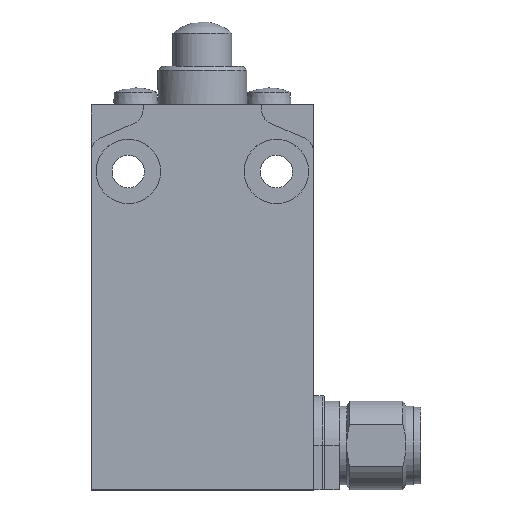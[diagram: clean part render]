
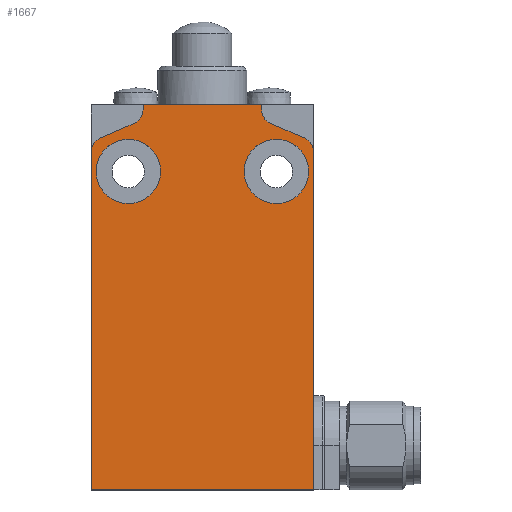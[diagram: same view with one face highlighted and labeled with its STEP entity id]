
A CAD part, top view. The second image highlights one B-rep face of the part: STEP entity #1667.
In plain terms, the highlighted planar face has unit normal (0, 0, 1) as drawn and (0, -1, 0) by its records, which use the part's own axes.
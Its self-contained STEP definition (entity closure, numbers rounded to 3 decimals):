
#54=LINE('',#2569,#172);
#81=LINE('',#2656,#199);
#82=LINE('',#2660,#200);
#83=LINE('',#2662,#201);
#84=LINE('',#2664,#202);
#85=LINE('',#2668,#203);
#86=LINE('',#2672,#204);
#87=LINE('',#2673,#205);
#172=VECTOR('',#2034,45.681);
#199=VECTOR('',#2127,4.978);
#200=VECTOR('',#2130,0.681);
#201=VECTOR('',#2131,16.);
#202=VECTOR('',#2132,0.681);
#203=VECTOR('',#2135,4.978);
#204=VECTOR('',#2138,45.681);
#205=VECTOR('',#2139,30.);
#307=PLANE('',#1812);
#357=FACE_BOUND('',#524,.T.);
#358=FACE_BOUND('',#525,.T.);
#408=FACE_OUTER_BOUND('',#523,.T.);
#523=EDGE_LOOP('',(#1210,#1211,#1212,#1213,#1214,#1215,#1216,#1217,#1218,
#1219,#1220,#1221));
#524=EDGE_LOOP('',(#1222));
#525=EDGE_LOOP('',(#1223));
#617=CIRCLE('',#1755,4.35);
#621=CIRCLE('',#1761,4.35);
#643=CIRCLE('',#1810,2.);
#645=CIRCLE('',#1813,2.);
#646=CIRCLE('',#1814,2.);
#647=CIRCLE('',#1815,2.);
#708=VERTEX_POINT('',#2478);
#712=VERTEX_POINT('',#2488);
#735=VERTEX_POINT('',#2566);
#736=VERTEX_POINT('',#2568);
#761=VERTEX_POINT('',#2649);
#763=VERTEX_POINT('',#2655);
#764=VERTEX_POINT('',#2657);
#765=VERTEX_POINT('',#2659);
#766=VERTEX_POINT('',#2661);
#767=VERTEX_POINT('',#2663);
#768=VERTEX_POINT('',#2665);
#769=VERTEX_POINT('',#2667);
#770=VERTEX_POINT('',#2669);
#771=VERTEX_POINT('',#2671);
#862=EDGE_CURVE('',#708,#708,#617,.T.);
#866=EDGE_CURVE('',#712,#712,#621,.T.);
#897=EDGE_CURVE('',#735,#736,#54,.T.);
#935=EDGE_CURVE('',#761,#735,#643,.T.);
#938=EDGE_CURVE('',#761,#763,#81,.T.);
#939=EDGE_CURVE('',#764,#763,#645,.T.);
#940=EDGE_CURVE('',#764,#765,#82,.T.);
#941=EDGE_CURVE('',#766,#765,#83,.T.);
#942=EDGE_CURVE('',#766,#767,#84,.T.);
#943=EDGE_CURVE('',#768,#767,#646,.T.);
#944=EDGE_CURVE('',#768,#769,#85,.T.);
#945=EDGE_CURVE('',#770,#769,#647,.T.);
#946=EDGE_CURVE('',#771,#770,#86,.T.);
#947=EDGE_CURVE('',#736,#771,#87,.T.);
#1210=ORIENTED_EDGE('',*,*,#935,.F.);
#1211=ORIENTED_EDGE('',*,*,#938,.T.);
#1212=ORIENTED_EDGE('',*,*,#939,.F.);
#1213=ORIENTED_EDGE('',*,*,#940,.T.);
#1214=ORIENTED_EDGE('',*,*,#941,.F.);
#1215=ORIENTED_EDGE('',*,*,#942,.T.);
#1216=ORIENTED_EDGE('',*,*,#943,.F.);
#1217=ORIENTED_EDGE('',*,*,#944,.T.);
#1218=ORIENTED_EDGE('',*,*,#945,.F.);
#1219=ORIENTED_EDGE('',*,*,#946,.F.);
#1220=ORIENTED_EDGE('',*,*,#947,.F.);
#1221=ORIENTED_EDGE('',*,*,#897,.F.);
#1222=ORIENTED_EDGE('',*,*,#866,.T.);
#1223=ORIENTED_EDGE('',*,*,#862,.T.);
#1667=ADVANCED_FACE('',(#408,#357,#358),#307,.T.);
#1755=AXIS2_PLACEMENT_3D('',#2479,#1971,#1972);
#1761=AXIS2_PLACEMENT_3D('',#2489,#1983,#1984);
#1810=AXIS2_PLACEMENT_3D('',#2650,#2120,#2121);
#1812=AXIS2_PLACEMENT_3D('',#2654,#2125,#2126);
#1813=AXIS2_PLACEMENT_3D('',#2658,#2128,#2129);
#1814=AXIS2_PLACEMENT_3D('',#2666,#2133,#2134);
#1815=AXIS2_PLACEMENT_3D('',#2670,#2136,#2137);
#1971=DIRECTION('center_axis',(0.,1.,0.));
#1972=DIRECTION('ref_axis',(-1.,0.,0.));
#1983=DIRECTION('center_axis',(0.,1.,0.));
#1984=DIRECTION('ref_axis',(1.,0.,0.));
#2034=DIRECTION('',(0.,0.,-1.));
#2120=DIRECTION('center_axis',(0.,1.,0.));
#2121=DIRECTION('ref_axis',(0.835,0.,0.55));
#2125=DIRECTION('center_axis',(0.,-1.,0.));
#2126=DIRECTION('ref_axis',(1.,0.,0.));
#2127=DIRECTION('',(-0.919,0.,0.394));
#2128=DIRECTION('center_axis',(0.,-1.,0.));
#2129=DIRECTION('ref_axis',(-0.835,0.,-0.55));
#2130=DIRECTION('',(0.,0.,1.));
#2131=DIRECTION('',(1.,0.,0.));
#2132=DIRECTION('',(0.,0.,-1.));
#2133=DIRECTION('center_axis',(0.,-1.,0.));
#2134=DIRECTION('ref_axis',(0.835,0.,-0.55));
#2135=DIRECTION('',(-0.919,0.,-0.394));
#2136=DIRECTION('center_axis',(0.,1.,0.));
#2137=DIRECTION('ref_axis',(-0.835,0.,0.55));
#2138=DIRECTION('',(0.,0.,1.));
#2139=DIRECTION('',(-1.,0.,0.));
#2478=CARTESIAN_POINT('',(-5.65,-16.,0.));
#2479=CARTESIAN_POINT('Origin',(-10.,-16.,0.));
#2488=CARTESIAN_POINT('',(5.65,-16.,0.));
#2489=CARTESIAN_POINT('Origin',(10.,-16.,0.));
#2566=CARTESIAN_POINT('',(15.,-16.,2.681));
#2568=CARTESIAN_POINT('',(15.,-16.,-43.));
#2569=CARTESIAN_POINT('',(15.,-16.,2.681));
#2649=CARTESIAN_POINT('',(13.788,-16.,4.519));
#2650=CARTESIAN_POINT('Origin',(13.,-16.,2.681));
#2654=CARTESIAN_POINT('Origin',(0.,-16.,-15.5));
#2655=CARTESIAN_POINT('',(9.212,-16.,6.481));
#2656=CARTESIAN_POINT('',(13.788,-16.,4.519));
#2657=CARTESIAN_POINT('',(8.,-16.,8.319));
#2658=CARTESIAN_POINT('Origin',(10.,-16.,8.319));
#2659=CARTESIAN_POINT('',(8.,-16.,9.));
#2660=CARTESIAN_POINT('',(8.,-16.,8.319));
#2661=CARTESIAN_POINT('',(-8.,-16.,9.));
#2662=CARTESIAN_POINT('',(-8.,-16.,9.));
#2663=CARTESIAN_POINT('',(-8.,-16.,8.319));
#2664=CARTESIAN_POINT('',(-8.,-16.,9.));
#2665=CARTESIAN_POINT('',(-9.212,-16.,6.481));
#2666=CARTESIAN_POINT('Origin',(-10.,-16.,8.319));
#2667=CARTESIAN_POINT('',(-13.788,-16.,4.519));
#2668=CARTESIAN_POINT('',(-9.212,-16.,6.481));
#2669=CARTESIAN_POINT('',(-15.,-16.,2.681));
#2670=CARTESIAN_POINT('Origin',(-13.,-16.,2.681));
#2671=CARTESIAN_POINT('',(-15.,-16.,-43.));
#2672=CARTESIAN_POINT('',(-15.,-16.,-43.));
#2673=CARTESIAN_POINT('',(15.,-16.,-43.));
